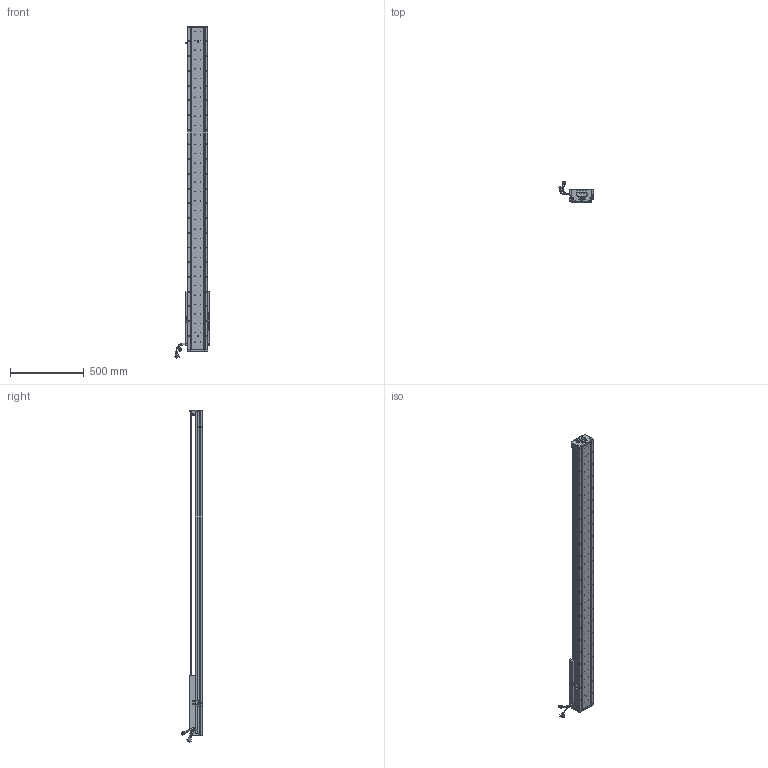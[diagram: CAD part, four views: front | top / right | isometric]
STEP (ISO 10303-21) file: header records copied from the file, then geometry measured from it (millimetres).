
FILE_DESCRIPTION (( 'STEP AP203' ), '1' );
FILE_NAME ('Z5-RY140D-1-L500-B-K.SLDASM_1750.step', '2021-05-17T08:37:40', ( '盈信电脑' ), ( '东莞市道滘镇水果街19号' ), 'SwSTEP 2.0', 'SolidWorks 2016', '' );
FILE_SCHEMA (( 'CONFIG_CONTROL_DESIGN' ));
Length unit declared in the file: millimetre
Products named in the file (36): SEAL-Part-1; Z5-RY140圉猾敕臏賑輸(21遴); Z5-RY140-L500直线电机模组底座_1750; SCREW-M1.6-1; 080黍杅芛假蚾釱21遴; SCREW-M1.6-3; HARNESS-Part-2; Z-RY140感应器672光电感应片; SCALE-Part-2; HOLDER0; SEAL; SCREW-M1.6; SCREW-M1.7; Z5-RY140D-1-L500-B-K.SLDASM_1750; PBU_SHEET; PSLH080_PSLF2; LABEL; HARNESS-Part-1; 詩湍狟揤裔; 140蚥薯蝶輸; SCREW-M1.6-2; COVER-Part-1; SCALE; 140雄赽晤鎢ん堤盄; SCREW-M1.7-1; LABEL-Part-1; SCALE-Part-1; Z-140詩湍傷裔啣; 榋妏寠巭燃_暯_M2_2; COVER; 覜茼ん672; HARNESS; Z5-RY140-L500詩湍100mm遵_1750; SHIELDPLATE; 詩湍奻揤裔; 140-Z-臏賑輸盄裔(21遴)
Assembly tree (41 placements, depth 4):
  Z5-RY140D-1-L500-B-K.SLDASM_1750
    Z5-RY140-L500直线电机模组底座_1750
    Z-RY140感应器672光电感应片
    Z5-RY140圉猾敕臏賑輸(21遴)
    覜茼ん672  x3
    Z5-RY140-L500詩湍100mm遵_1750
    PSLH080_PSLF2
      SCALE
        SCALE-Part-1
        SCALE-Part-2
      HARNESS
        HARNESS-Part-1
        HARNESS-Part-2
      LABEL
        LABEL-Part-1
      COVER
        COVER-Part-1
      SEAL
        SEAL-Part-1
      榋妏寠巭燃_暯_M2_2
      SHIELDPLATE
      SCREW-M1.7
      SCREW-M1.7-1
      PBU_SHEET
      SCREW-M1.6
      SCREW-M1.6-1
      SCREW-M1.6-2
      SCREW-M1.6-3
      HOLDER0
    080黍杅芛假蚾釱21遴
    140-Z-臏賑輸盄裔(21遴)
    Z-140詩湍傷裔啣  x2
    詩湍狟揤裔  x2
    詩湍奻揤裔  x2
    140蚥薯蝶輸  x2
    140雄赽晤鎢ん堤盄
Bounding box: 239.84 x 143.88 x 2255.87 mm (x, y, z)
Volume: 7777704.4 mm3; surface area: 1982060.2 mm2
Topology: 36 solids, 36 shells, 3844 faces, 10372 edges, 6569 vertices
Faces by surface type: cylinder 2034, plane 1310, cone 378, torus 69, bspline 53
Entity records: 119752 total; most frequent: CARTESIAN_POINT 32749, ORIENTED_EDGE 17712, DIRECTION 16760, EDGE_CURVE 8856, AXIS2_PLACEMENT_3D 6244, VERTEX_POINT 5737, VECTOR 4272, LINE 4272
